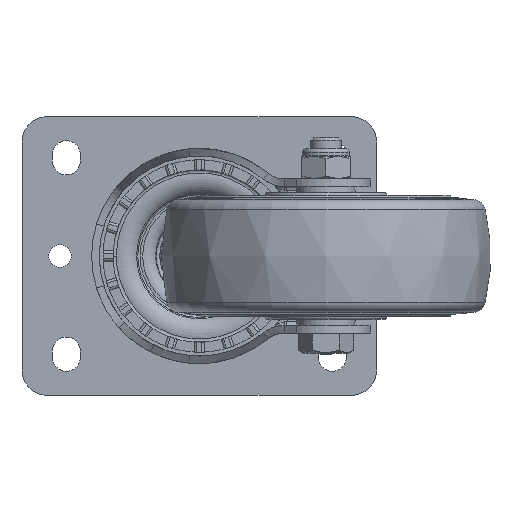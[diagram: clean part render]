
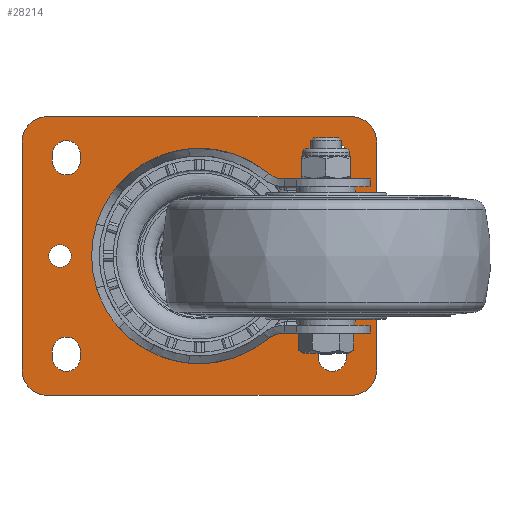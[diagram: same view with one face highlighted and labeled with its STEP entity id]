
A CAD part, front view. The second image highlights one B-rep face of the part: STEP entity #28214.
In plain terms, the highlighted planar face has unit normal (0, -1, 0).
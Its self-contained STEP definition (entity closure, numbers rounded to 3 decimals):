
#1312=LINE('',#54544,#3077);
#1315=LINE('',#54553,#3080);
#1318=LINE('',#54561,#3083);
#1320=LINE('',#54569,#3085);
#1324=LINE('',#54578,#3089);
#1326=LINE('',#54585,#3091);
#1330=LINE('',#54594,#3095);
#1332=LINE('',#54601,#3097);
#1336=LINE('',#54610,#3101);
#1338=LINE('',#54617,#3103);
#1342=LINE('',#54626,#3107);
#1344=LINE('',#54631,#3109);
#3077=VECTOR('',#34466,10.);
#3080=VECTOR('',#34477,10.);
#3083=VECTOR('',#34486,10.);
#3085=VECTOR('',#34494,10.);
#3089=VECTOR('',#34504,10.);
#3091=VECTOR('',#34512,10.);
#3095=VECTOR('',#34522,10.);
#3097=VECTOR('',#34530,10.);
#3101=VECTOR('',#34540,10.);
#3103=VECTOR('',#34548,10.);
#3107=VECTOR('',#34558,10.);
#3109=VECTOR('',#34566,10.);
#4338=PLANE('',#30256);
#4654=FACE_BOUND('',#8091,.T.);
#4655=FACE_BOUND('',#8092,.T.);
#4656=FACE_BOUND('',#8093,.T.);
#4657=FACE_BOUND('',#8094,.T.);
#4658=FACE_BOUND('',#8095,.T.);
#4659=FACE_BOUND('',#8096,.T.);
#4660=FACE_BOUND('',#8097,.T.);
#6317=FACE_OUTER_BOUND('',#8090,.T.);
#8090=EDGE_LOOP('',(#23306,#23307,#23308,#23309,#23310,#23311,#23312,#23313));
#8091=EDGE_LOOP('',(#23314));
#8092=EDGE_LOOP('',(#23315));
#8093=EDGE_LOOP('',(#23316,#23317,#23318,#23319));
#8094=EDGE_LOOP('',(#23320,#23321,#23322,#23323));
#8095=EDGE_LOOP('',(#23324,#23325,#23326,#23327));
#8096=EDGE_LOOP('',(#23328,#23329,#23330,#23331));
#8097=EDGE_LOOP('',(#23332));
#9384=CIRCLE('',#30172,4.5);
#9385=CIRCLE('',#30174,4.5);
#9412=CIRCLE('',#30215,10.);
#9413=CIRCLE('',#30219,10.);
#9414=CIRCLE('',#30222,10.);
#9415=CIRCLE('',#30225,10.);
#9416=CIRCLE('',#30228,5.5);
#9417=CIRCLE('',#30231,5.5);
#9418=CIRCLE('',#30234,5.5);
#9419=CIRCLE('',#30237,5.5);
#9420=CIRCLE('',#30240,5.5);
#9421=CIRCLE('',#30243,5.5);
#9422=CIRCLE('',#30246,5.5);
#9423=CIRCLE('',#30249,5.5);
#9424=CIRCLE('',#30252,42.09);
#12570=VERTEX_POINT('',#54467);
#12571=VERTEX_POINT('',#54471);
#12591=VERTEX_POINT('',#54536);
#12592=VERTEX_POINT('',#54537);
#12593=VERTEX_POINT('',#54542);
#12594=VERTEX_POINT('',#54547);
#12595=VERTEX_POINT('',#54551);
#12596=VERTEX_POINT('',#54555);
#12597=VERTEX_POINT('',#54556);
#12598=VERTEX_POINT('',#54563);
#12599=VERTEX_POINT('',#54567);
#12600=VERTEX_POINT('',#54568);
#12601=VERTEX_POINT('',#54573);
#12602=VERTEX_POINT('',#54577);
#12603=VERTEX_POINT('',#54583);
#12604=VERTEX_POINT('',#54584);
#12605=VERTEX_POINT('',#54589);
#12606=VERTEX_POINT('',#54593);
#12607=VERTEX_POINT('',#54599);
#12608=VERTEX_POINT('',#54600);
#12609=VERTEX_POINT('',#54605);
#12610=VERTEX_POINT('',#54609);
#12611=VERTEX_POINT('',#54615);
#12612=VERTEX_POINT('',#54616);
#12613=VERTEX_POINT('',#54621);
#12614=VERTEX_POINT('',#54625);
#12615=VERTEX_POINT('',#54633);
#16294=EDGE_CURVE('',#12570,#12570,#9384,.T.);
#16296=EDGE_CURVE('',#12571,#12571,#9385,.T.);
#16326=EDGE_CURVE('',#12591,#12592,#9412,.T.);
#16330=EDGE_CURVE('',#12591,#12593,#1312,.T.);
#16331=EDGE_CURVE('',#12594,#12593,#9413,.T.);
#16334=EDGE_CURVE('',#12594,#12595,#1315,.T.);
#16335=EDGE_CURVE('',#12596,#12597,#9414,.T.);
#16338=EDGE_CURVE('',#12596,#12592,#1318,.T.);
#16339=EDGE_CURVE('',#12598,#12595,#9415,.T.);
#16341=EDGE_CURVE('',#12599,#12600,#1320,.T.);
#16344=EDGE_CURVE('',#12600,#12601,#9416,.T.);
#16346=EDGE_CURVE('',#12601,#12602,#1324,.T.);
#16348=EDGE_CURVE('',#12602,#12599,#9417,.T.);
#16349=EDGE_CURVE('',#12603,#12604,#1326,.T.);
#16352=EDGE_CURVE('',#12605,#12603,#9418,.T.);
#16354=EDGE_CURVE('',#12606,#12605,#1330,.T.);
#16356=EDGE_CURVE('',#12604,#12606,#9419,.T.);
#16357=EDGE_CURVE('',#12607,#12608,#1332,.T.);
#16360=EDGE_CURVE('',#12609,#12607,#9420,.T.);
#16362=EDGE_CURVE('',#12610,#12609,#1336,.T.);
#16364=EDGE_CURVE('',#12608,#12610,#9421,.T.);
#16365=EDGE_CURVE('',#12611,#12612,#1338,.T.);
#16368=EDGE_CURVE('',#12612,#12613,#9422,.T.);
#16370=EDGE_CURVE('',#12613,#12614,#1342,.T.);
#16372=EDGE_CURVE('',#12614,#12611,#9423,.T.);
#16373=EDGE_CURVE('',#12598,#12597,#1344,.T.);
#16374=EDGE_CURVE('',#12615,#12615,#9424,.T.);
#23306=ORIENTED_EDGE('',*,*,#16326,.F.);
#23307=ORIENTED_EDGE('',*,*,#16330,.T.);
#23308=ORIENTED_EDGE('',*,*,#16331,.F.);
#23309=ORIENTED_EDGE('',*,*,#16334,.T.);
#23310=ORIENTED_EDGE('',*,*,#16339,.F.);
#23311=ORIENTED_EDGE('',*,*,#16373,.T.);
#23312=ORIENTED_EDGE('',*,*,#16335,.F.);
#23313=ORIENTED_EDGE('',*,*,#16338,.T.);
#23314=ORIENTED_EDGE('',*,*,#16294,.T.);
#23315=ORIENTED_EDGE('',*,*,#16296,.T.);
#23316=ORIENTED_EDGE('',*,*,#16341,.T.);
#23317=ORIENTED_EDGE('',*,*,#16344,.T.);
#23318=ORIENTED_EDGE('',*,*,#16346,.T.);
#23319=ORIENTED_EDGE('',*,*,#16348,.T.);
#23320=ORIENTED_EDGE('',*,*,#16349,.T.);
#23321=ORIENTED_EDGE('',*,*,#16356,.T.);
#23322=ORIENTED_EDGE('',*,*,#16354,.T.);
#23323=ORIENTED_EDGE('',*,*,#16352,.T.);
#23324=ORIENTED_EDGE('',*,*,#16357,.T.);
#23325=ORIENTED_EDGE('',*,*,#16364,.T.);
#23326=ORIENTED_EDGE('',*,*,#16362,.T.);
#23327=ORIENTED_EDGE('',*,*,#16360,.T.);
#23328=ORIENTED_EDGE('',*,*,#16370,.T.);
#23329=ORIENTED_EDGE('',*,*,#16372,.T.);
#23330=ORIENTED_EDGE('',*,*,#16365,.T.);
#23331=ORIENTED_EDGE('',*,*,#16368,.T.);
#23332=ORIENTED_EDGE('',*,*,#16374,.T.);
#28214=ADVANCED_FACE('',(#6317,#4654,#4655,#4656,#4657,#4658,#4659,#4660),
#4338,.T.);
#30172=AXIS2_PLACEMENT_3D('',#54469,#34369,#34370);
#30174=AXIS2_PLACEMENT_3D('',#54473,#34374,#34375);
#30215=AXIS2_PLACEMENT_3D('',#54538,#34459,#34460);
#30219=AXIS2_PLACEMENT_3D('',#54548,#34471,#34472);
#30222=AXIS2_PLACEMENT_3D('',#54557,#34480,#34481);
#30225=AXIS2_PLACEMENT_3D('',#54564,#34489,#34490);
#30228=AXIS2_PLACEMENT_3D('',#54574,#34499,#34500);
#30231=AXIS2_PLACEMENT_3D('',#54581,#34508,#34509);
#30234=AXIS2_PLACEMENT_3D('',#54590,#34517,#34518);
#30237=AXIS2_PLACEMENT_3D('',#54597,#34526,#34527);
#30240=AXIS2_PLACEMENT_3D('',#54606,#34535,#34536);
#30243=AXIS2_PLACEMENT_3D('',#54613,#34544,#34545);
#30246=AXIS2_PLACEMENT_3D('',#54622,#34553,#34554);
#30249=AXIS2_PLACEMENT_3D('',#54629,#34562,#34563);
#30252=AXIS2_PLACEMENT_3D('',#54634,#34569,#34570);
#30256=AXIS2_PLACEMENT_3D('',#54640,#34577,#34578);
#34369=DIRECTION('center_axis',(0.,1.,0.));
#34370=DIRECTION('ref_axis',(1.,0.,0.));
#34374=DIRECTION('center_axis',(0.,1.,0.));
#34375=DIRECTION('ref_axis',(1.,0.,0.));
#34459=DIRECTION('center_axis',(0.,1.,0.));
#34460=DIRECTION('ref_axis',(0.707,0.,-0.707));
#34466=DIRECTION('',(0.,0.,1.));
#34471=DIRECTION('center_axis',(0.,1.,0.));
#34472=DIRECTION('ref_axis',(0.707,0.,0.707));
#34477=DIRECTION('',(-1.,0.,0.));
#34480=DIRECTION('center_axis',(0.,1.,0.));
#34481=DIRECTION('ref_axis',(-0.707,0.,-0.707));
#34486=DIRECTION('',(1.,0.,0.));
#34489=DIRECTION('center_axis',(0.,1.,0.));
#34490=DIRECTION('ref_axis',(-0.707,0.,0.707));
#34494=DIRECTION('',(0.,0.,-1.));
#34499=DIRECTION('center_axis',(0.,1.,0.));
#34500=DIRECTION('ref_axis',(1.,0.,0.));
#34504=DIRECTION('',(0.,0.,1.));
#34508=DIRECTION('center_axis',(0.,1.,0.));
#34509=DIRECTION('ref_axis',(-1.,0.,0.));
#34512=DIRECTION('',(0.,0.,1.));
#34517=DIRECTION('center_axis',(0.,1.,0.));
#34518=DIRECTION('ref_axis',(-1.,0.,0.));
#34522=DIRECTION('',(0.,0.,-1.));
#34526=DIRECTION('center_axis',(0.,1.,0.));
#34527=DIRECTION('ref_axis',(1.,0.,0.));
#34530=DIRECTION('',(0.,0.,-1.));
#34535=DIRECTION('center_axis',(0.,1.,0.));
#34536=DIRECTION('ref_axis',(1.,0.,0.));
#34540=DIRECTION('',(0.,0.,1.));
#34544=DIRECTION('center_axis',(0.,1.,0.));
#34545=DIRECTION('ref_axis',(-1.,0.,0.));
#34548=DIRECTION('',(0.,0.,1.));
#34553=DIRECTION('center_axis',(0.,1.,0.));
#34554=DIRECTION('ref_axis',(-1.,0.,0.));
#34558=DIRECTION('',(0.,0.,-1.));
#34562=DIRECTION('center_axis',(0.,1.,0.));
#34563=DIRECTION('ref_axis',(1.,0.,0.));
#34566=DIRECTION('',(0.,0.,-1.));
#34569=DIRECTION('center_axis',(0.,1.,0.));
#34570=DIRECTION('ref_axis',(1.,0.,0.));
#34577=DIRECTION('center_axis',(0.,-1.,0.));
#34578=DIRECTION('ref_axis',(0.,0.,-1.));
#54467=CARTESIAN_POINT('',(-59.5,-4.,0.));
#54469=CARTESIAN_POINT('Origin',(-55.,-4.,0.));
#54471=CARTESIAN_POINT('',(50.5,-4.,0.));
#54473=CARTESIAN_POINT('Origin',(55.,-4.,0.));
#54536=CARTESIAN_POINT('',(70.,-4.,-45.));
#54537=CARTESIAN_POINT('',(60.,-4.,-55.));
#54538=CARTESIAN_POINT('Origin',(60.,-4.,-45.));
#54542=CARTESIAN_POINT('',(70.,-4.,45.));
#54544=CARTESIAN_POINT('',(70.,-4.,55.));
#54547=CARTESIAN_POINT('',(60.,-4.,55.));
#54548=CARTESIAN_POINT('Origin',(60.,-4.,45.));
#54551=CARTESIAN_POINT('',(-60.,-4.,55.));
#54553=CARTESIAN_POINT('',(-70.,-4.,55.));
#54555=CARTESIAN_POINT('',(-60.,-4.,-55.));
#54556=CARTESIAN_POINT('',(-70.,-4.,-45.));
#54557=CARTESIAN_POINT('Origin',(-60.,-4.,-45.));
#54561=CARTESIAN_POINT('',(70.,-4.,-55.));
#54563=CARTESIAN_POINT('',(-70.,-4.,45.));
#54564=CARTESIAN_POINT('Origin',(-60.,-4.,45.));
#54567=CARTESIAN_POINT('',(58.,-4.,40.));
#54568=CARTESIAN_POINT('',(58.,-4.,37.5));
#54569=CARTESIAN_POINT('',(58.,-4.,18.75));
#54573=CARTESIAN_POINT('',(47.,-4.,37.5));
#54574=CARTESIAN_POINT('Origin',(52.5,-4.,37.5));
#54577=CARTESIAN_POINT('',(47.,-4.,40.));
#54578=CARTESIAN_POINT('',(47.,-4.,20.));
#54581=CARTESIAN_POINT('Origin',(52.5,-4.,40.));
#54583=CARTESIAN_POINT('',(-58.,-4.,37.5));
#54584=CARTESIAN_POINT('',(-58.,-4.,40.));
#54585=CARTESIAN_POINT('',(-58.,-4.,18.75));
#54589=CARTESIAN_POINT('',(-47.,-4.,37.5));
#54590=CARTESIAN_POINT('Origin',(-52.5,-4.,37.5));
#54593=CARTESIAN_POINT('',(-47.,-4.,40.));
#54594=CARTESIAN_POINT('',(-47.,-4.,20.));
#54597=CARTESIAN_POINT('Origin',(-52.5,-4.,40.));
#54599=CARTESIAN_POINT('',(58.,-4.,-37.5));
#54600=CARTESIAN_POINT('',(58.,-4.,-40.));
#54601=CARTESIAN_POINT('',(58.,-4.,-18.75));
#54605=CARTESIAN_POINT('',(47.,-4.,-37.5));
#54606=CARTESIAN_POINT('Origin',(52.5,-4.,-37.5));
#54609=CARTESIAN_POINT('',(47.,-4.,-40.));
#54610=CARTESIAN_POINT('',(47.,-4.,-20.));
#54613=CARTESIAN_POINT('Origin',(52.5,-4.,-40.));
#54615=CARTESIAN_POINT('',(-58.,-4.,-40.));
#54616=CARTESIAN_POINT('',(-58.,-4.,-37.5));
#54617=CARTESIAN_POINT('',(-58.,-4.,-18.75));
#54621=CARTESIAN_POINT('',(-47.,-4.,-37.5));
#54622=CARTESIAN_POINT('Origin',(-52.5,-4.,-37.5));
#54625=CARTESIAN_POINT('',(-47.,-4.,-40.));
#54626=CARTESIAN_POINT('',(-47.,-4.,-20.));
#54629=CARTESIAN_POINT('Origin',(-52.5,-4.,-40.));
#54631=CARTESIAN_POINT('',(-70.,-4.,-55.));
#54633=CARTESIAN_POINT('',(0.,-4.,-42.09));
#54634=CARTESIAN_POINT('Origin',(0.,-4.,0.));
#54640=CARTESIAN_POINT('Origin',(-50.,-4.,0.));
